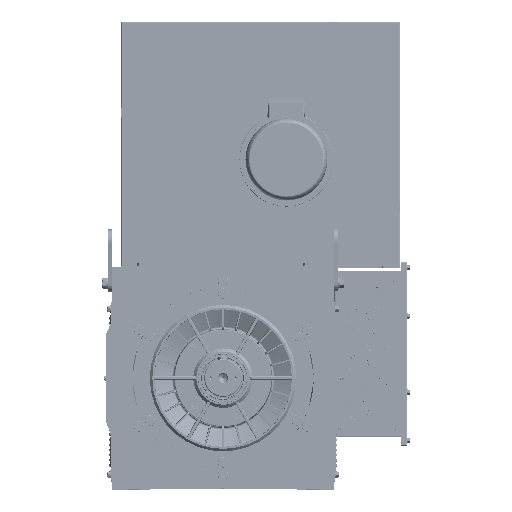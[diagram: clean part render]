
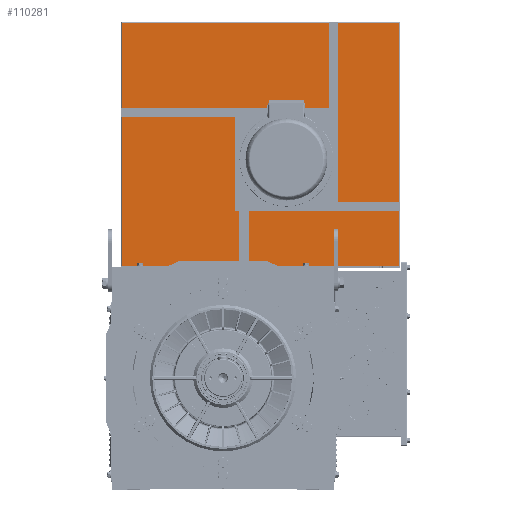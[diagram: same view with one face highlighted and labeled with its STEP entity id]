
A CAD part, top view. The second image highlights one B-rep face of the part: STEP entity #110281.
In plain terms, the highlighted planar face has unit normal (0, 0, 1).
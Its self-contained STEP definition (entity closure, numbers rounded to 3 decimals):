
#248 = CARTESIAN_POINT ( 'NONE',  ( 215., 351.25, 114. ) ) ;
#9153 = LINE ( 'NONE', #210714, #89598 ) ;
#10453 = DIRECTION ( 'NONE',  ( 0., 0., -1. ) ) ;
#11632 = CARTESIAN_POINT ( 'NONE',  ( 82.5, 477.5, 114. ) ) ;
#15123 = VERTEX_POINT ( 'NONE', #16267 ) ;
#16267 = CARTESIAN_POINT ( 'NONE',  ( -11.192, 444.942, 114. ) ) ;
#19113 = EDGE_CURVE ( 'NONE', #125948, #125948, #155408, .T. ) ;
#20060 = DIRECTION ( 'NONE',  ( 0., 0., -1. ) ) ;
#20897 = EDGE_CURVE ( 'NONE', #95172, #175352, #224696, .T. ) ;
#21353 = ORIENTED_EDGE ( 'NONE', *, *, #175726, .F. ) ;
#21716 = ORIENTED_EDGE ( 'NONE', *, *, #32215, .T. ) ;
#23536 = VECTOR ( 'NONE', #46114, 1000. ) ;
#27334 = CARTESIAN_POINT ( 'NONE',  ( 176.192, 438.692, 114. ) ) ;
#27602 = VERTEX_POINT ( 'NONE', #59761 ) ;
#31832 = DIRECTION ( 'NONE',  ( 0., 1., 0. ) ) ;
#32215 = EDGE_CURVE ( 'NONE', #74332, #74332, #155917, .T. ) ;
#33177 = DIRECTION ( 'NONE',  ( 0., 1., 0. ) ) ;
#34197 = AXIS2_PLACEMENT_3D ( 'NONE', #161237, #20060, #33177 ) ;
#34682 = AXIS2_PLACEMENT_3D ( 'NONE', #88811, #232340, #159973 ) ;
#35759 = EDGE_LOOP ( 'NONE', ( #77270 ) ) ;
#35785 = EDGE_LOOP ( 'NONE', ( #21716 ) ) ;
#38394 = ORIENTED_EDGE ( 'NONE', *, *, #164810, .T. ) ;
#44555 = VERTEX_POINT ( 'NONE', #45738 ) ;
#45738 = CARTESIAN_POINT ( 'NONE',  ( -11.192, 257.558, 114. ) ) ;
#45917 = AXIS2_PLACEMENT_3D ( 'NONE', #176481, #143304, #31832 ) ;
#46114 = DIRECTION ( 'NONE',  ( 0., 1., 0. ) ) ;
#49573 = ORIENTED_EDGE ( 'NONE', *, *, #156115, .T. ) ;
#51305 = EDGE_LOOP ( 'NONE', ( #133068 ) ) ;
#54590 = FACE_OUTER_BOUND ( 'NONE', #224418, .T. ) ;
#55708 = VERTEX_POINT ( 'NONE', #112567 ) ;
#55751 = FACE_BOUND ( 'NONE', #157953, .T. ) ;
#55834 = EDGE_CURVE ( 'NONE', #27602, #27602, #197410, .T. ) ;
#56931 = DIRECTION ( 'NONE',  ( 0., 0., -1. ) ) ;
#57234 = CARTESIAN_POINT ( 'NONE',  ( 443., 785., 114. ) ) ;
#59761 = CARTESIAN_POINT ( 'NONE',  ( -50., 351.25, 114. ) ) ;
#61065 = DIRECTION ( 'NONE',  ( 0., -1., 0. ) ) ;
#62077 = CARTESIAN_POINT ( 'NONE',  ( -443., 4., 114. ) ) ;
#67251 = ORIENTED_EDGE ( 'NONE', *, *, #20897, .T. ) ;
#74332 = VERTEX_POINT ( 'NONE', #221308 ) ;
#76578 = DIRECTION ( 'NONE',  ( 0., 1., 0. ) ) ;
#77270 = ORIENTED_EDGE ( 'NONE', *, *, #144602, .T. ) ;
#77556 = CARTESIAN_POINT ( 'NONE',  ( 198., 345., 114. ) ) ;
#81018 = CIRCLE ( 'NONE', #213592, 115.5 ) ;
#88811 = CARTESIAN_POINT ( 'NONE',  ( 176.192, 251.308, 114. ) ) ;
#89337 = EDGE_LOOP ( 'NONE', ( #142113 ) ) ;
#89598 = VECTOR ( 'NONE', #137200, 1000. ) ;
#91299 = PLANE ( 'NONE',  #134581 ) ;
#93917 = LINE ( 'NONE', #57234, #23536 ) ;
#94774 = FACE_BOUND ( 'NONE', #89337, .T. ) ;
#95172 = VERTEX_POINT ( 'NONE', #216439 ) ;
#99393 = CARTESIAN_POINT ( 'NONE',  ( 443., 783., 114. ) ) ;
#101439 = CARTESIAN_POINT ( 'NONE',  ( 82.5, 218.75, 114. ) ) ;
#103211 = DIRECTION ( 'NONE',  ( 0., 0., -1. ) ) ;
#109516 = EDGE_LOOP ( 'NONE', ( #21353 ) ) ;
#110281 = ADVANCED_FACE ( 'NONE', ( #220542, #55751, #184885, #144726, #111431, #131577, #94774, #201546, #181398, #54590 ), #91299, .F. ) ;
#111431 = FACE_BOUND ( 'NONE', #187824, .T. ) ;
#111554 = ORIENTED_EDGE ( 'NONE', *, *, #187067, .T. ) ;
#112567 = CARTESIAN_POINT ( 'NONE',  ( 82.5, 483.75, 114. ) ) ;
#116804 = DIRECTION ( 'NONE',  ( 0., 0., -1. ) ) ;
#116869 = AXIS2_PLACEMENT_3D ( 'NONE', #133724, #203722, #187046 ) ;
#118103 = CARTESIAN_POINT ( 'NONE',  ( -11.192, 251.308, 114. ) ) ;
#119852 = CARTESIAN_POINT ( 'NONE',  ( 445., 783., 114. ) ) ;
#120295 = AXIS2_PLACEMENT_3D ( 'NONE', #27334, #103211, #154253 ) ;
#121624 = VERTEX_POINT ( 'NONE', #142914 ) ;
#125601 = CIRCLE ( 'NONE', #133159, 6.25 ) ;
#125948 = VERTEX_POINT ( 'NONE', #248 ) ;
#126927 = CARTESIAN_POINT ( 'NONE',  ( 445., 785., 114. ) ) ;
#129253 = DIRECTION ( 'NONE',  ( 0., 1., 0. ) ) ;
#131577 = FACE_BOUND ( 'NONE', #224482, .T. ) ;
#133068 = ORIENTED_EDGE ( 'NONE', *, *, #55834, .T. ) ;
#133159 = AXIS2_PLACEMENT_3D ( 'NONE', #11632, #10453, #194179 ) ;
#133724 = CARTESIAN_POINT ( 'NONE',  ( 82.5, 212.5, 114. ) ) ;
#134581 = AXIS2_PLACEMENT_3D ( 'NONE', #126927, #56931, #129253 ) ;
#137200 = DIRECTION ( 'NONE',  ( -1., 0., 0. ) ) ;
#137623 = VERTEX_POINT ( 'NONE', #77556 ) ;
#139701 = DIRECTION ( 'NONE',  ( 1., 0., 0. ) ) ;
#140994 = VERTEX_POINT ( 'NONE', #205950 ) ;
#142113 = ORIENTED_EDGE ( 'NONE', *, *, #165396, .T. ) ;
#142914 = CARTESIAN_POINT ( 'NONE',  ( 176.192, 444.942, 114. ) ) ;
#143304 = DIRECTION ( 'NONE',  ( 0., 0., -1. ) ) ;
#143681 = ORIENTED_EDGE ( 'NONE', *, *, #155962, .T. ) ;
#144602 = EDGE_CURVE ( 'NONE', #15123, #15123, #227197, .T. ) ;
#144726 = FACE_BOUND ( 'NONE', #228170, .T. ) ;
#154253 = DIRECTION ( 'NONE',  ( 0., 1., 0. ) ) ;
#155408 = CIRCLE ( 'NONE', #34197, 6.25 ) ;
#155917 = CIRCLE ( 'NONE', #34682, 6.25 ) ;
#155962 = EDGE_CURVE ( 'NONE', #233027, #95172, #209980, .T. ) ;
#156115 = EDGE_CURVE ( 'NONE', #44555, #44555, #220359, .T. ) ;
#157953 = EDGE_LOOP ( 'NONE', ( #38394 ) ) ;
#158353 = VERTEX_POINT ( 'NONE', #101439 ) ;
#159973 = DIRECTION ( 'NONE',  ( 0., 1., 0. ) ) ;
#161237 = CARTESIAN_POINT ( 'NONE',  ( 215., 345., 114. ) ) ;
#164810 = EDGE_CURVE ( 'NONE', #121624, #121624, #192170, .T. ) ;
#165396 = EDGE_CURVE ( 'NONE', #158353, #158353, #192510, .T. ) ;
#168502 = DIRECTION ( 'NONE',  ( 0., 0., 1. ) ) ;
#175352 = VERTEX_POINT ( 'NONE', #62077 ) ;
#175726 = EDGE_CURVE ( 'NONE', #137623, #137623, #81018, .T. ) ;
#176481 = CARTESIAN_POINT ( 'NONE',  ( -50., 345., 114. ) ) ;
#179809 = ORIENTED_EDGE ( 'NONE', *, *, #19113, .T. ) ;
#179819 = EDGE_CURVE ( 'NONE', #140994, #175352, #9153, .T. ) ;
#181398 = FACE_BOUND ( 'NONE', #109516, .T. ) ;
#184885 = FACE_BOUND ( 'NONE', #35785, .T. ) ;
#187046 = DIRECTION ( 'NONE',  ( 0., 1., 0. ) ) ;
#187067 = EDGE_CURVE ( 'NONE', #55708, #55708, #125601, .T. ) ;
#187824 = EDGE_LOOP ( 'NONE', ( #111554 ) ) ;
#187943 = ORIENTED_EDGE ( 'NONE', *, *, #213434, .T. ) ;
#189229 = DIRECTION ( 'NONE',  ( 0., 0., -1. ) ) ;
#190373 = DIRECTION ( 'NONE',  ( 0., 1., 0. ) ) ;
#192170 = CIRCLE ( 'NONE', #120295, 6.25 ) ;
#192510 = CIRCLE ( 'NONE', #116869, 6.25 ) ;
#193109 = AXIS2_PLACEMENT_3D ( 'NONE', #220090, #116804, #76578 ) ;
#193716 = AXIS2_PLACEMENT_3D ( 'NONE', #118103, #189229, #190373 ) ;
#194179 = DIRECTION ( 'NONE',  ( 0., 1., 0. ) ) ;
#197290 = VECTOR ( 'NONE', #230173, 1000. ) ;
#197410 = CIRCLE ( 'NONE', #45917, 6.25 ) ;
#201546 = FACE_BOUND ( 'NONE', #51305, .T. ) ;
#203722 = DIRECTION ( 'NONE',  ( 0., 0., -1. ) ) ;
#205950 = CARTESIAN_POINT ( 'NONE',  ( 443., 4., 114. ) ) ;
#206412 = CARTESIAN_POINT ( 'NONE',  ( 82.5, 345., 114. ) ) ;
#209980 = LINE ( 'NONE', #119852, #197290 ) ;
#210714 = CARTESIAN_POINT ( 'NONE',  ( 445., 4., 114. ) ) ;
#212819 = VECTOR ( 'NONE', #61065, 1000. ) ;
#213434 = EDGE_CURVE ( 'NONE', #140994, #233027, #93917, .T. ) ;
#213592 = AXIS2_PLACEMENT_3D ( 'NONE', #206412, #168502, #139701 ) ;
#216439 = CARTESIAN_POINT ( 'NONE',  ( -443., 783., 114. ) ) ;
#220090 = CARTESIAN_POINT ( 'NONE',  ( -11.192, 438.692, 114. ) ) ;
#220359 = CIRCLE ( 'NONE', #193716, 6.25 ) ;
#220542 = FACE_BOUND ( 'NONE', #35759, .T. ) ;
#221308 = CARTESIAN_POINT ( 'NONE',  ( 176.192, 257.558, 114. ) ) ;
#222366 = CARTESIAN_POINT ( 'NONE',  ( -443., 785., 114. ) ) ;
#224418 = EDGE_LOOP ( 'NONE', ( #143681, #67251, #233528, #187943 ) ) ;
#224482 = EDGE_LOOP ( 'NONE', ( #179809 ) ) ;
#224696 = LINE ( 'NONE', #222366, #212819 ) ;
#227197 = CIRCLE ( 'NONE', #193109, 6.25 ) ;
#228170 = EDGE_LOOP ( 'NONE', ( #49573 ) ) ;
#230173 = DIRECTION ( 'NONE',  ( -1., 0., 0. ) ) ;
#232340 = DIRECTION ( 'NONE',  ( 0., 0., -1. ) ) ;
#233027 = VERTEX_POINT ( 'NONE', #99393 ) ;
#233528 = ORIENTED_EDGE ( 'NONE', *, *, #179819, .F. ) ;
